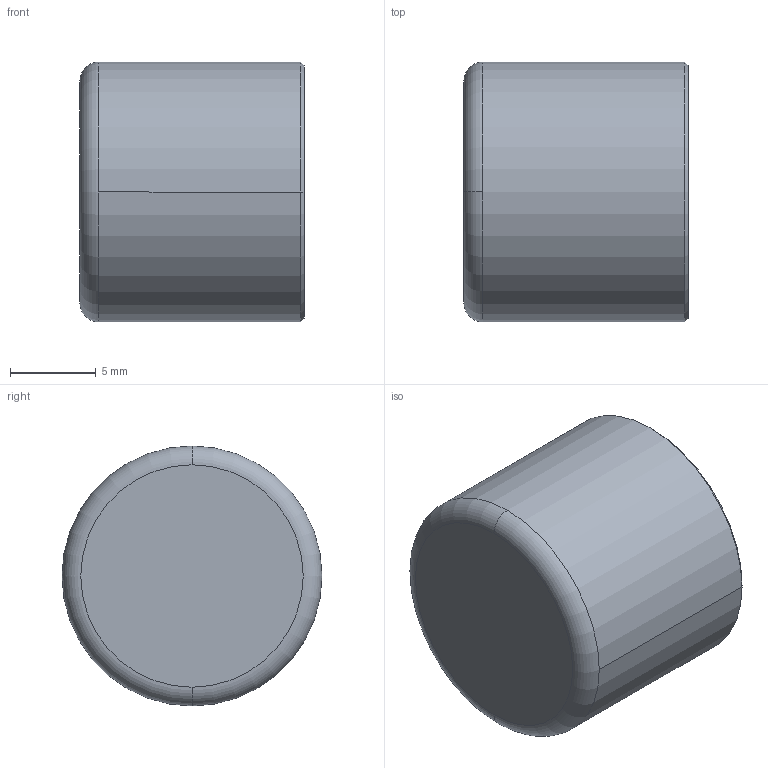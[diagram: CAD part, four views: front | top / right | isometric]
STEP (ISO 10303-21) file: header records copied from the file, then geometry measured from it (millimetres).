
FILE_DESCRIPTION((''),'2;1');
FILE_NAME('C:\sanha_work\5130\f\530114.stp','2005-10-21T18:20:02',('Kris'),(''),'Autodesk Inventor 8','Autodesk Inventor 8','');
FILE_SCHEMA(('AUTOMOTIVE_DESIGN { 1 0 10303 214 1 1 1 1 }'));
Length unit declared in the file: millimetre
Products named in the file (1): 530114
Bounding box: 13.1 x 15.2 x 15.2 mm (x, y, z)
Volume: 441.4 mm3; surface area: 1494.9 mm2
Topology: 1 solids, 1 shells, 15 faces, 34 edges, 22 vertices
Faces by surface type: torus 4, cylinder 4, cone 4, plane 3
Entity records: 461 total; most frequent: DIRECTION 92, CARTESIAN_POINT 72, ORIENTED_EDGE 68, AXIS2_PLACEMENT_3D 42, EDGE_CURVE 34, CIRCLE 26, VERTEX_POINT 22, EDGE_LOOP 16
